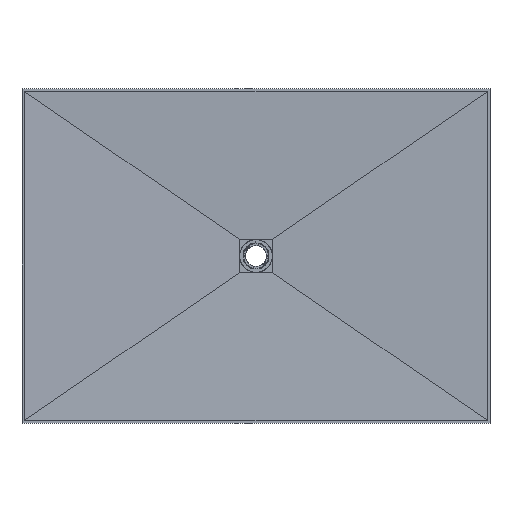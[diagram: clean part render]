
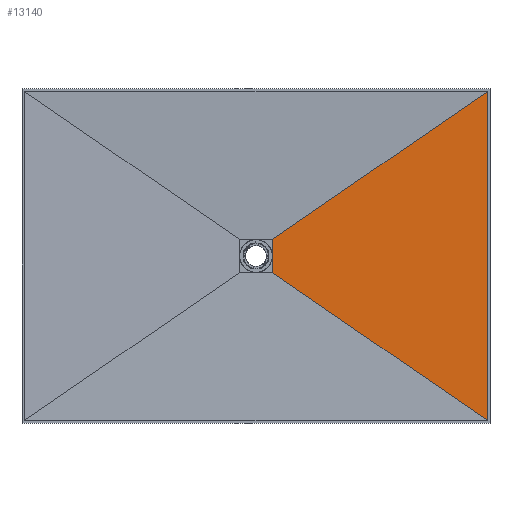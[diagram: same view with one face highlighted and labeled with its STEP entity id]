
A CAD part, top view. The second image highlights one B-rep face of the part: STEP entity #13140.
In plain terms, the highlighted planar face has unit normal (-0.028, 0, 1).
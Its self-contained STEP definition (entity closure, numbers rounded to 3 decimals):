
#2348=FACE_OUTER_BOUND('',#3093,.T.);
#3093=EDGE_LOOP('',(#8808,#8809,#8810,#8811));
#3902=LINE('',#18662,#4523);
#3908=LINE('',#18674,#4529);
#3910=LINE('',#18677,#4531);
#3911=LINE('',#18679,#4532);
#4523=VECTOR('',#15362,10.);
#4529=VECTOR('',#15370,10.);
#4531=VECTOR('',#15374,10.);
#4532=VECTOR('',#15377,10.);
#5139=VERTEX_POINT('',#18659);
#5140=VERTEX_POINT('',#18661);
#5143=VERTEX_POINT('',#18668);
#5145=VERTEX_POINT('',#18672);
#6605=EDGE_CURVE('',#5139,#5140,#3902,.F.);
#6611=EDGE_CURVE('',#5143,#5145,#3908,.F.);
#6613=EDGE_CURVE('',#5139,#5143,#3910,.T.);
#6614=EDGE_CURVE('',#5140,#5145,#3911,.T.);
#8808=ORIENTED_EDGE('',*,*,#6605,.F.);
#8809=ORIENTED_EDGE('',*,*,#6613,.T.);
#8810=ORIENTED_EDGE('',*,*,#6611,.T.);
#8811=ORIENTED_EDGE('',*,*,#6614,.F.);
#13070=PLANE('',#13978);
#13140=ADVANCED_FACE('',(#2348),#13070,.F.);
#13978=AXIS2_PLACEMENT_3D('',#18678,#15375,#15376);
#15362=DIRECTION('',(0.,1.,0.));
#15370=DIRECTION('',(0.,1.,0.));
#15374=DIRECTION('',(-0.824,-0.567,-0.023));
#15375=DIRECTION('center_axis',(0.028,0.,
-1.));
#15376=DIRECTION('ref_axis',(-1.,0.,-0.028));
#15377=DIRECTION('',(-0.824,0.567,-0.023));
#18659=CARTESIAN_POINT('',(873.382,429.774,25.));
#18661=CARTESIAN_POINT('',(873.382,-1068.774,25.));
#18662=CARTESIAN_POINT('',(873.382,54.9,25.));
#18668=CARTESIAN_POINT('',(-104.218,-243.026,-2.5));
#18672=CARTESIAN_POINT('',(-104.218,-395.974,-2.5));
#18674=CARTESIAN_POINT('',(-104.218,55.15,-2.5));
#18677=CARTESIAN_POINT('',(158.463,-62.244,4.889));
#18678=CARTESIAN_POINT('Origin',(873.365,429.8,25.));
#18679=CARTESIAN_POINT('',(523.634,-828.072,15.162));
